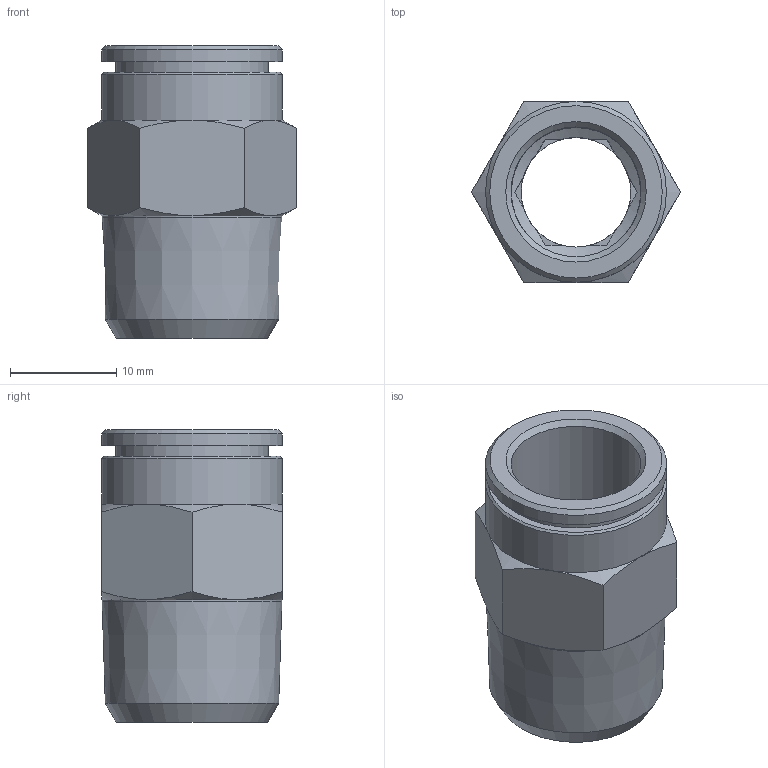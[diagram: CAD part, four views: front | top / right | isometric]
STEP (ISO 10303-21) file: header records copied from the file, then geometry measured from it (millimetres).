
FILE_DESCRIPTION(/* description */ (''),/* implementation_level */ '2;1');
FILE_NAME(/* name */ '200162-ES_STX01K_12_R38_25.05.16',/* time_stamp */ '2016-05-25T11:24:04+02:00',/* author */ (''),/* organization */ (''),/* preprocessor_version */ 'ST-DEVELOPER v14',/* originating_system */ 'HiCAD 2013 1802.4 Build 509',/* authorisation */ '');
FILE_SCHEMA (('AUTOMOTIVE_DESIGN { 1 0 10303 214 1 1 1 1 }'));
Length unit declared in the file: millimetre
Products named in the file (3): Root; R200162-ES; DR12
Assembly tree (2 placements, depth 2):
  Root
    R200162-ES
    DR12
Bounding box: 19.63 x 17 x 27.5 mm (x, y, z)
Volume: 2856.7 mm3; surface area: 3746.2 mm2
Topology: 2 solids, 2 shells, 56 faces, 130 edges, 82 vertices
Faces by surface type: plane 31, cone 16, cylinder 9
Full cylindrical faces by diameter (mm): 10.3 x1, 12.15 x1, 12.2 x1, 13.2 x1, 14.3 x1, 14.5 x1, 16.893 x1, 17 x2
Entity records: 2637 total; most frequent: DIRECTION 300, CARTESIAN_POINT 247, PRESENTATION_STYLE_ASSIGNMENT 218, COLOUR_RGB 217, DRAUGHTING_PRE_DEFINED_CURVE_FONT 216, CURVE_STYLE 216, OVER_RIDING_STYLED_ITEM 216, ORIENTED_EDGE 216
